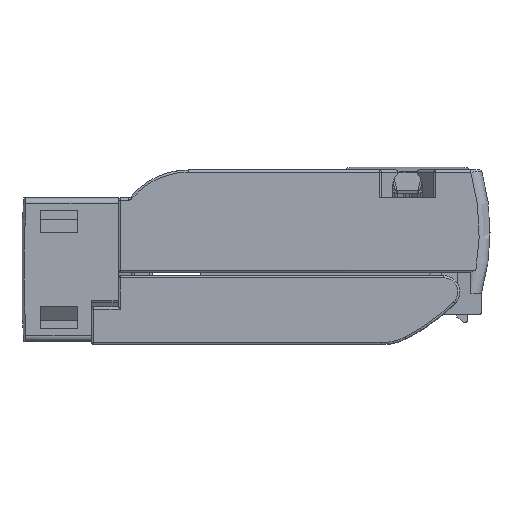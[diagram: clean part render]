
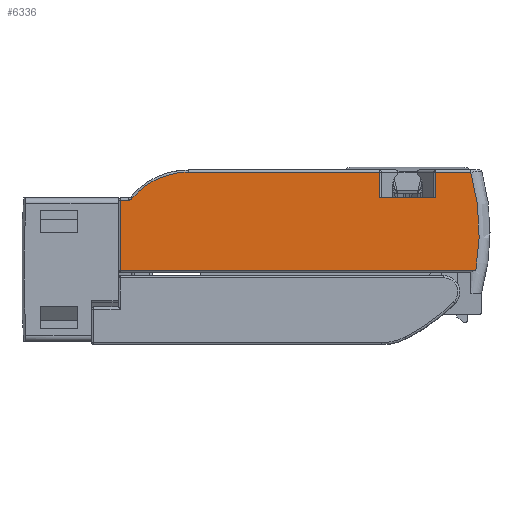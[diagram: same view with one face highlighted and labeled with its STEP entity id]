
A CAD part, front view. The second image highlights one B-rep face of the part: STEP entity #6336.
In plain terms, the highlighted planar face has unit normal (0, -1, 0).
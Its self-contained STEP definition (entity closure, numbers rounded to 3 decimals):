
#4727=CIRCLE('',#39504,6.8);
#4798=CIRCLE('',#39681,20.064);
#4799=CIRCLE('',#39682,0.4);
#6336=ADVANCED_FACE('',(#9339),#8000,.F.);
#8000=PLANE('',#39683);
#9339=FACE_OUTER_BOUND('',#11273,.T.);
#11273=EDGE_LOOP('',(#17610,#17611,#17612,#17613,#17614,#17615,#17616,#17617,
#17618,#17619,#17620));
#17610=ORIENTED_EDGE('',*,*,#28716,.F.);
#17611=ORIENTED_EDGE('',*,*,#28717,.T.);
#17612=ORIENTED_EDGE('',*,*,#28718,.F.);
#17613=ORIENTED_EDGE('',*,*,#28719,.T.);
#17614=ORIENTED_EDGE('',*,*,#28715,.T.);
#17615=ORIENTED_EDGE('',*,*,#28720,.T.);
#17616=ORIENTED_EDGE('',*,*,#28721,.T.);
#17617=ORIENTED_EDGE('',*,*,#28366,.F.);
#17618=ORIENTED_EDGE('',*,*,#28363,.F.);
#17619=ORIENTED_EDGE('',*,*,#28722,.F.);
#17620=ORIENTED_EDGE('',*,*,#28723,.F.);
#24284=VERTEX_POINT('',#60066);
#24285=VERTEX_POINT('',#60068);
#24286=VERTEX_POINT('',#60072);
#24525=VERTEX_POINT('',#60864);
#24526=VERTEX_POINT('',#60868);
#24527=VERTEX_POINT('',#60872);
#24528=VERTEX_POINT('',#60873);
#24529=VERTEX_POINT('',#60875);
#24530=VERTEX_POINT('',#60877);
#24531=VERTEX_POINT('',#60880);
#24532=VERTEX_POINT('',#60883);
#28363=EDGE_CURVE('',#24284,#24285,#4727,.T.);
#28366=EDGE_CURVE('',#24285,#24286,#33110,.T.);
#28715=EDGE_CURVE('',#24525,#24526,#33359,.T.);
#28716=EDGE_CURVE('',#24527,#24528,#33360,.T.);
#28717=EDGE_CURVE('',#24527,#24529,#33361,.T.);
#28718=EDGE_CURVE('',#24530,#24529,#4798,.T.);
#28719=EDGE_CURVE('',#24530,#24525,#33362,.T.);
#28720=EDGE_CURVE('',#24526,#24531,#33363,.T.);
#28721=EDGE_CURVE('',#24531,#24286,#33364,.T.);
#28722=EDGE_CURVE('',#24532,#24284,#4799,.T.);
#28723=EDGE_CURVE('',#24528,#24532,#33365,.T.);
#33110=LINE('',#60073,#36796);
#33359=LINE('',#60869,#37045);
#33360=LINE('',#60871,#37046);
#33361=LINE('',#60874,#37047);
#33362=LINE('',#60878,#37048);
#33363=LINE('',#60879,#37049);
#33364=LINE('',#60881,#37050);
#33365=LINE('',#60884,#37051);
#36796=VECTOR('',#45536,1.);
#37045=VECTOR('',#46129,1.);
#37046=VECTOR('',#46132,1.);
#37047=VECTOR('',#46133,1.);
#37048=VECTOR('',#46136,1.);
#37049=VECTOR('',#46137,1.);
#37050=VECTOR('',#46138,1.);
#37051=VECTOR('',#46141,1.);
#39504=AXIS2_PLACEMENT_3D('',#60067,#45528,#45529);
#39681=AXIS2_PLACEMENT_3D('',#60876,#46134,#46135);
#39682=AXIS2_PLACEMENT_3D('',#60882,#46139,#46140);
#39683=AXIS2_PLACEMENT_3D('',#60885,#46142,#46143);
#45528=DIRECTION('',(0.,1.,0.));
#45529=DIRECTION('',(-0.769,0.,0.639));
#45536=DIRECTION('',(1.,0.,0.));
#46129=DIRECTION('',(0.,0.,-1.));
#46132=DIRECTION('',(0.,0.,1.));
#46133=DIRECTION('',(1.,0.,0.));
#46134=DIRECTION('',(0.,1.,0.));
#46135=DIRECTION('',(0.961,0.,0.277));
#46136=DIRECTION('',(-1.,0.,0.));
#46137=DIRECTION('',(-1.,0.,0.));
#46138=DIRECTION('',(0.,0.,1.));
#46139=DIRECTION('',(0.,-1.,0.));
#46140=DIRECTION('',(0.,0.,-1.));
#46141=DIRECTION('',(1.,0.,0.));
#46142=DIRECTION('',(0.,1.,0.));
#46143=DIRECTION('',(0.,0.,1.));
#60066=CARTESIAN_POINT('',(-15.366,37.067,6.844));
#60067=CARTESIAN_POINT('',(-10.135,37.067,2.5));
#60068=CARTESIAN_POINT('',(-10.135,37.067,9.3));
#60072=CARTESIAN_POINT('',(7.619,37.067,9.3));
#60073=CARTESIAN_POINT('',(-10.135,37.067,9.3));
#60864=CARTESIAN_POINT('',(12.811,37.067,9.3));
#60868=CARTESIAN_POINT('',(12.811,37.067,6.9));
#60869=CARTESIAN_POINT('',(12.811,37.067,9.3));
#60871=CARTESIAN_POINT('',(-16.435,37.067,0.2));
#60872=CARTESIAN_POINT('',(-16.435,37.067,0.2));
#60873=CARTESIAN_POINT('',(-16.435,37.067,6.7));
#60874=CARTESIAN_POINT('',(-16.435,37.067,0.2));
#60875=CARTESIAN_POINT('',(16.548,37.067,0.2));
#60876=CARTESIAN_POINT('',(-3.199,37.067,3.75));
#60877=CARTESIAN_POINT('',(16.082,37.067,9.3));
#60878=CARTESIAN_POINT('',(16.082,37.067,9.3));
#60879=CARTESIAN_POINT('',(12.811,37.067,6.9));
#60880=CARTESIAN_POINT('',(7.619,37.067,6.9));
#60881=CARTESIAN_POINT('',(7.619,37.067,6.9));
#60882=CARTESIAN_POINT('',(-15.674,37.067,7.1));
#60883=CARTESIAN_POINT('',(-15.674,37.067,6.7));
#60884=CARTESIAN_POINT('',(-16.435,37.067,6.7));
#60885=CARTESIAN_POINT('',(-17.101,37.067,0.018));
